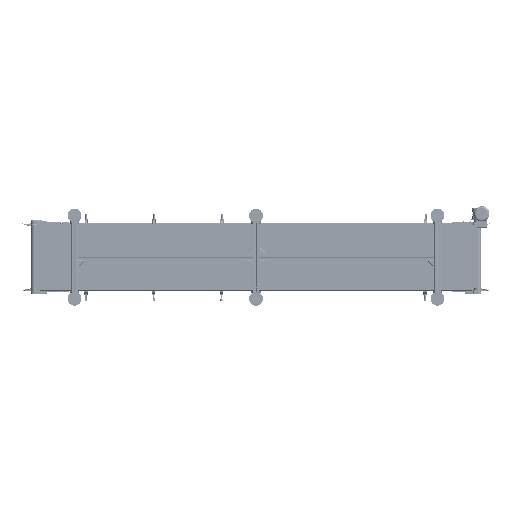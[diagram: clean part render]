
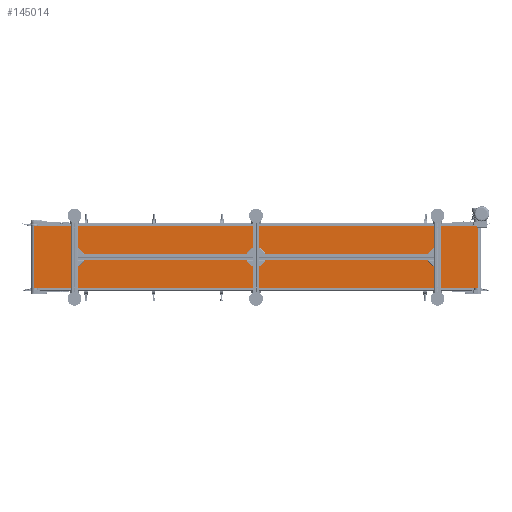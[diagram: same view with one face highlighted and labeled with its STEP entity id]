
A CAD part, front view. The second image highlights one B-rep face of the part: STEP entity #145014.
In plain terms, the highlighted planar face has unit normal (0, -1, 0).
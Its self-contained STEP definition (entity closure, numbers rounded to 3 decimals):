
#8067 = CARTESIAN_POINT ( 'NONE',  ( 1600., -27., -225. ) ) ;
#10767 = DIRECTION ( 'NONE',  ( 0., 0., -1. ) ) ;
#16582 = CARTESIAN_POINT ( 'NONE',  ( -1600., -27., -225. ) ) ;
#20587 = CARTESIAN_POINT ( 'NONE',  ( -1600., -27., -225. ) ) ;
#22266 = CARTESIAN_POINT ( 'NONE',  ( 1600., -27., 225. ) ) ;
#26232 = VECTOR ( 'NONE', #10767, 1000. ) ;
#53107 = VERTEX_POINT ( 'NONE', #186790 ) ;
#57009 = DIRECTION ( 'NONE',  ( 1., 0., 0. ) ) ;
#64246 = PLANE ( 'NONE',  #231989 ) ;
#71418 = VECTOR ( 'NONE', #209371, 1000. ) ;
#78469 = DIRECTION ( 'NONE',  ( 1., 0., 0. ) ) ;
#108079 = EDGE_CURVE ( 'NONE', #208858, #116983, #133144, .T. ) ;
#110253 = CARTESIAN_POINT ( 'NONE',  ( -1600., -27., 225. ) ) ;
#110473 = VECTOR ( 'NONE', #78469, 1000. ) ;
#116945 = EDGE_LOOP ( 'NONE', ( #251617, #147980, #282101, #188885 ) ) ;
#116983 = VERTEX_POINT ( 'NONE', #8067 ) ;
#122982 = VERTEX_POINT ( 'NONE', #168057 ) ;
#130973 = EDGE_CURVE ( 'NONE', #122982, #116983, #255434, .T. ) ;
#133144 = LINE ( 'NONE', #16582, #110473 ) ;
#145014 = ADVANCED_FACE ( 'NONE', ( #159286 ), #64246, .F. ) ;
#147980 = ORIENTED_EDGE ( 'NONE', *, *, #130973, .F. ) ;
#149997 = EDGE_CURVE ( 'NONE', #53107, #122982, #178119, .T. ) ;
#159286 = FACE_OUTER_BOUND ( 'NONE', #116945, .T. ) ;
#168057 = CARTESIAN_POINT ( 'NONE',  ( 1600., -27., 225. ) ) ;
#178119 = LINE ( 'NONE', #201130, #194625 ) ;
#179378 = LINE ( 'NONE', #180893, #26232 ) ;
#180893 = CARTESIAN_POINT ( 'NONE',  ( -1600., -27., 225. ) ) ;
#186790 = CARTESIAN_POINT ( 'NONE',  ( -1600., -27., 225. ) ) ;
#188885 = ORIENTED_EDGE ( 'NONE', *, *, #191613, .T. ) ;
#191613 = EDGE_CURVE ( 'NONE', #53107, #208858, #179378, .T. ) ;
#194625 = VECTOR ( 'NONE', #57009, 1000. ) ;
#201130 = CARTESIAN_POINT ( 'NONE',  ( -1600., -27., 225. ) ) ;
#208858 = VERTEX_POINT ( 'NONE', #20587 ) ;
#209371 = DIRECTION ( 'NONE',  ( 0., 0., -1. ) ) ;
#228344 = DIRECTION ( 'NONE',  ( 0., 0., 1. ) ) ;
#231989 = AXIS2_PLACEMENT_3D ( 'NONE', #110253, #274412, #228344 ) ;
#251617 = ORIENTED_EDGE ( 'NONE', *, *, #108079, .T. ) ;
#255434 = LINE ( 'NONE', #22266, #71418 ) ;
#274412 = DIRECTION ( 'NONE',  ( 0., 1., 0. ) ) ;
#282101 = ORIENTED_EDGE ( 'NONE', *, *, #149997, .F. ) ;
